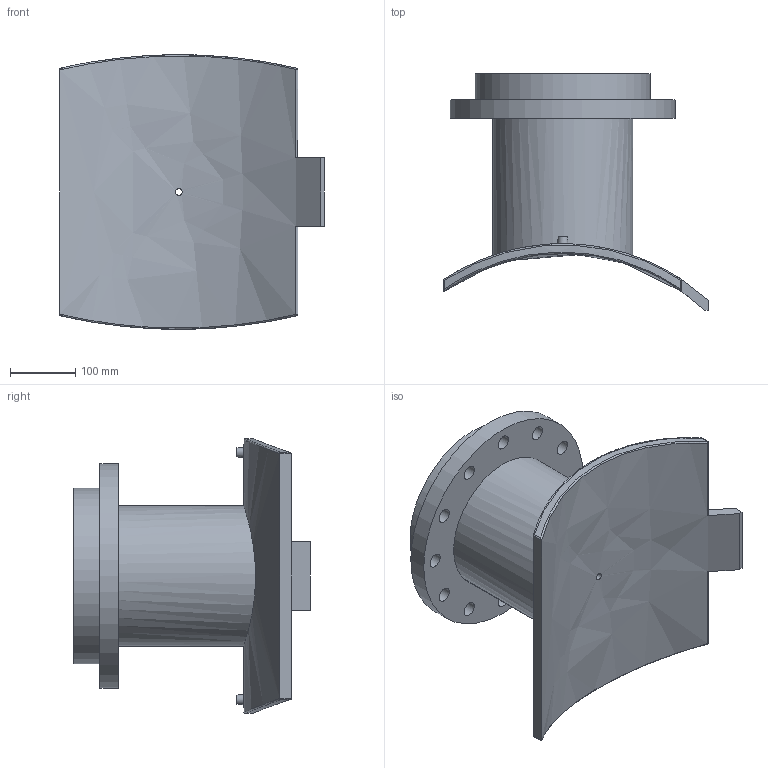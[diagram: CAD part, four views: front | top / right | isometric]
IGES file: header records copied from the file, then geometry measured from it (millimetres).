
Global section: file name: 495903630200TN; native system: Autodesk Inventor 2019; preprocessor: unknown; author: KIM; date: 20240403.210126; units: millimetre
Bounding box: 405 x 361.52 x 419.86 mm (x, y, z)
Volume: 8800862.1 mm3; surface area: 830074.7 mm2
Topology: 1 solids, 1 shells, 62 faces, 163 edges, 126 vertices
Faces by surface type: bspline 62
